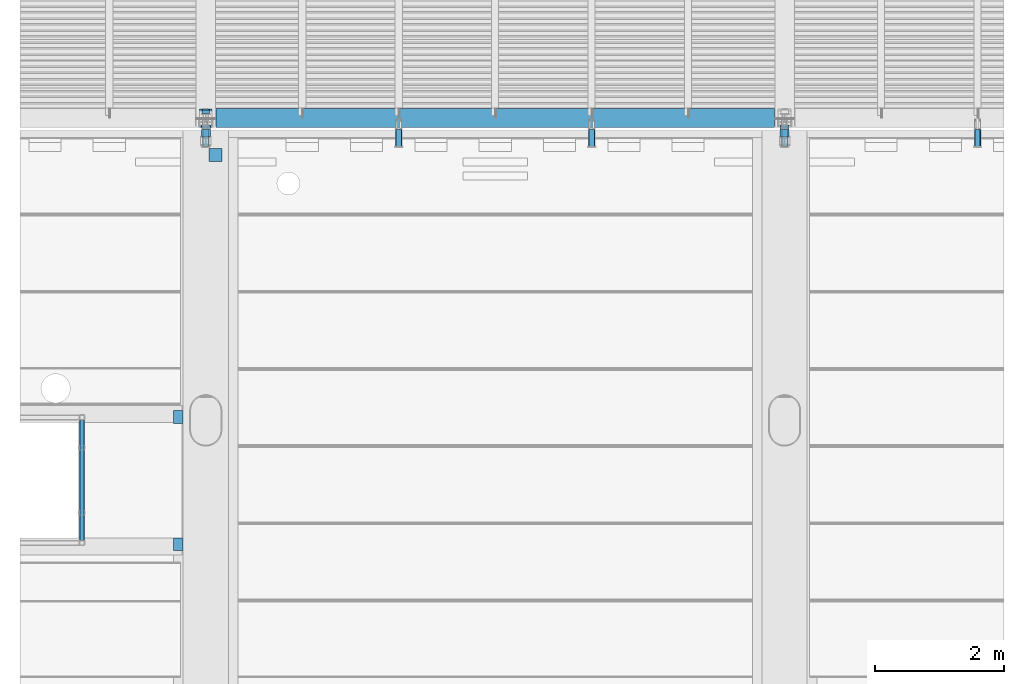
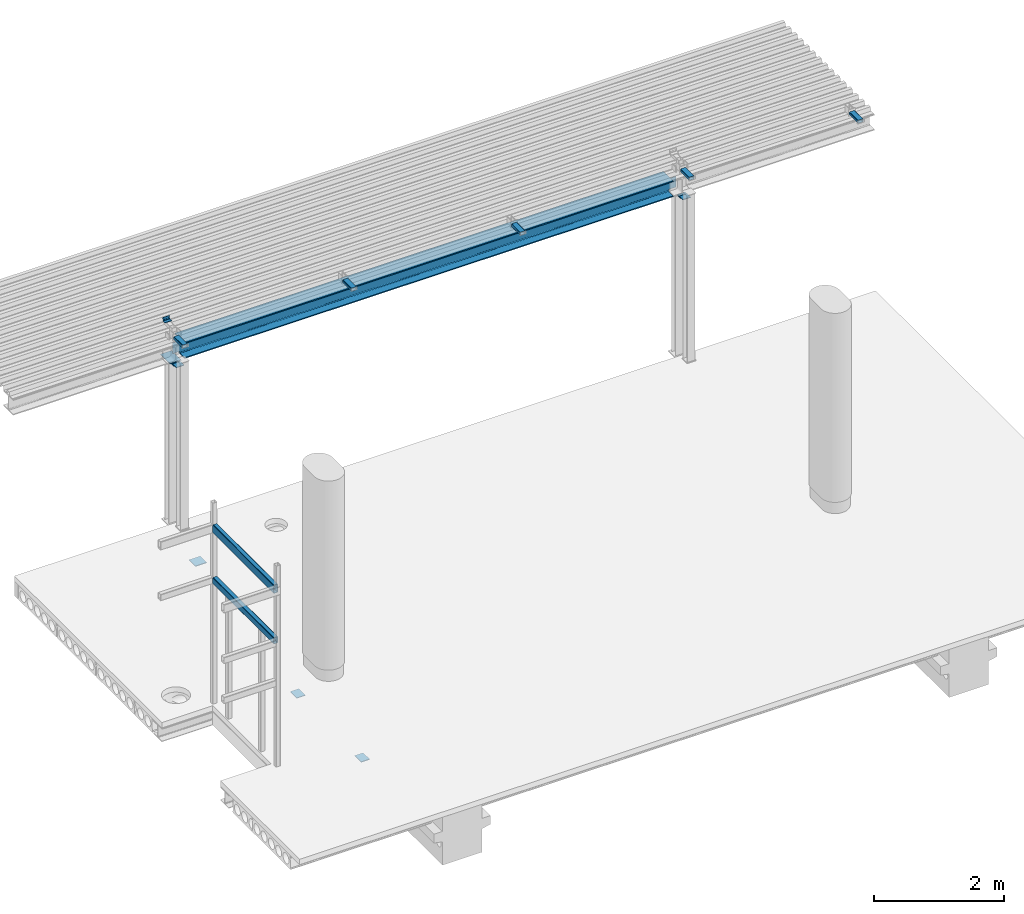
# One storey, part 5 of 34: 17 beams.
"""IFC2X3 building model written with IfcOpenShell, lengths in millimetres."""

from ifc_helpers import new_model, entity, si_unit, converted_unit, derived_unit, direction, frame, frame_2d, origin_with_axes, origin_2d_with_axis, place, context, subcontext, project, spatial, polyline, circle_curve, parameter, trimmed, segment, composite_curve, rectangle, hollow_rectangle, circle, i_section, l_section, outline, extrude, boolean, halfspace, material, type_object, element, save


model = new_model("IFC2X3")

# Units and contexts
model_context = context("Model", 3, precision=0.01, world=frame((0.0, 4.29681676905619e-09, 0.0)), true_north=direction((4.01073788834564e-13, 1.0)))
plan_context = context("Plan", 3, precision=0.01, world=frame((0.0, 4.29681676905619e-09, 0.0)), true_north=direction((4.01073788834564e-13, 1.0)))
body_context = subcontext(model_context, "Body", "Model", "MODEL_VIEW")
ifc_project = project(units=[converted_unit("PLANEANGLEUNIT", "DEGREE", entity("IfcPositiveLengthMeasure", 0.0174532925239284), si_unit("PLANEANGLEUNIT", "RADIAN"), dimensions=[0, 0, 0, 0, 0, 0, 0]), si_unit("AREAUNIT", "SQUARE_METRE"), si_unit("LENGTHUNIT", "METRE", prefix="MILLI"), si_unit("MASSUNIT", "GRAM", prefix="KILO"), si_unit("POWERUNIT", "WATT"), si_unit("PRESSUREUNIT", "PASCAL"), si_unit("FORCEUNIT", "NEWTON", prefix="KILO"), si_unit("ELECTRICVOLTAGEUNIT", "VOLT"), si_unit("ELECTRICCURRENTUNIT", "AMPERE"), si_unit("THERMODYNAMICTEMPERATUREUNIT", "DEGREE_CELSIUS"), si_unit("TIMEUNIT", "SECOND"), si_unit("VOLUMEUNIT", "CUBIC_METRE"), derived_unit("LINEARVELOCITYUNIT", [(si_unit("LENGTHUNIT", "METRE"), 1), (si_unit("TIMEUNIT", "SECOND"), -1)]), derived_unit("VOLUMETRICFLOWRATEUNIT", [(si_unit("VOLUMEUNIT", "CUBIC_METRE"), 1), (si_unit("TIMEUNIT", "SECOND"), -1)]), derived_unit("THERMALTRANSMITTANCEUNIT", [(si_unit("POWERUNIT", "WATT"), 1), (si_unit("THERMODYNAMICTEMPERATUREUNIT", "KELVIN"), -1), (si_unit("AREAUNIT", "SQUARE_METRE"), -1)]), derived_unit("SOUNDPRESSUREUNIT", [(si_unit("PRESSUREUNIT", "PASCAL"), 1)])], contexts=[model_context, plan_context])

# Site, building, storey
site_placement = place(None, frame((0.0, -4.29681676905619e-09, 0.0), z_axis=(0.0, 0.0, 1.0), x_axis=(1.0, 0.0, 0.0)))
site = spatial("IfcSite", under=ifc_project, at=site_placement, Name="Gardermoen", CompositionType="ELEMENT")
building_placement = place(site_placement, frame((0.0, 4.29681676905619e-09, 0.0), z_axis=(0.0, 0.0, 1.0), x_axis=(1.0, 0.0, 0.0)))
building = spatial("IfcBuilding", under=site, at=building_placement, Name="TH", CompositionType="ELEMENT")
storey_placement = place(building_placement, origin_with_axes())
storey = spatial("IfcBuildingStorey", under=building, at=storey_placement, Name="F", CompositionType="ELEMENT", Elevation=0.0)

# Beams
ifc_material_1 = material(Name="STEEL/S355")
beam_type_1 = type_object("IfcBeamType", Name="PL12*140", PredefinedType="NOTDEFINED")
for number, where, z_axis, x_axis, name in (
    (1, (898000.000000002, 484779.995625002, 213102.0), (-1.0, 0.0, 6.61744490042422e-24), (0.0, 1.0, 0.0), "STÅLSØYLE"),
    (2, (907000.000000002, 484779.995625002, 213102.0), (-1.0, 0.0, 6.61744490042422e-24), (0.0, 1.0, 0.0), "STÅLSØYLE"),
    (3, (898000.000000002, 484710.000057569, 213114.0), (-1.0, 0.0, 6.61744490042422e-24), (0.0, 1.0, 0.0), "STÅLSPESIAL"),
    (4, (907000.000000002, 484710.000057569, 213114.0), (-1.0, 0.0, 6.61744490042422e-24), (0.0, 1.0, 0.0), "STÅLSPESIAL"),
):
    element("IfcBeam", number, at=place(storey_placement, frame(where, z_axis=z_axis, x_axis=x_axis)), inside=storey, type_object=beam_type_1, material=ifc_material_1, Name=name, ObjectType="PL12*140", context=body_context, shape_type="SweptSolid", body=[
        extrude(rectangle(XDim=12.0, YDim=140.0, at=origin_2d_with_axis()), frame((109.999999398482, 1.10038606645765e-25, 0.0), z_axis=(-1.0, 0.0, 6.61744490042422e-24), x_axis=(0.0, -1.0, 0.0)), (0.0, 0.0, 1.0), 110.0),
    ])
beam_type_2 = type_object("IfcBeamType", Name="PL10*150", PredefinedType="NOTDEFINED")
for number, where, z_axis, x_axis in (
    (5, (897649.999531, 480455.001182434, 209760.000000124), (6.61744490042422e-24, 0.0, 1.0), (-1.0, 0.0, 6.61744490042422e-24)),
    (6, (897649.999531, 478475.001182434, 209760.000000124), (6.61744490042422e-24, 0.0, 1.0), (-1.0, 0.0, 6.61744490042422e-24)),
):
    element("IfcBeam", number, at=place(storey_placement, frame(where, z_axis=z_axis, x_axis=x_axis)), inside=storey, type_object=beam_type_2, material=ifc_material_1, Name="INNSTØPNGODS", ObjectType="PL10*150", context=body_context, shape_type="SweptSolid", body=[
        extrude(outline(polyline([(0.0, 0.0), (150.0, -2.44426701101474e-12), (150.0, 200.0), (0.0, 200.0), (0.0, 0.0)])), frame((0.0, 0.0, -5.0), z_axis=(0.0, 0.0, 1.0), x_axis=(1.0, 0.0, 0.0)), (0.0, 0.0, 1.0), 10.0),
    ])
beam_type_3 = type_object("IfcBeamType", Name="PL10*200", PredefinedType="NOTDEFINED")
beam_1_placement = place(storey_placement, frame((898049.995402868, 484525.1394133, 209575.0), z_axis=(-1.79291902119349e-18, 2.67799702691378e-13, -1.0), x_axis=(0.999999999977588, 6.6950000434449e-06, 0.0)))
element("IfcBeam", 7, at=beam_1_placement, inside=storey, type_object=beam_type_3, material=ifc_material_1, Name="INNSTØPNGODS", ObjectType="PL10*200", context=body_context, shape_type="SweptSolid", body=[
    extrude(outline(polyline([(0.0, 0.0), (200.000000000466, 2.3283064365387e-09), (200.000000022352, 199.999999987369), (0.0, 200.0), (0.0, 0.0)])), frame((0.0, 0.0, -5.0), z_axis=(0.0, 0.0, 1.0), x_axis=(1.0, 0.0, 0.0)), (0.0, 0.0, 1.0), 10.0),
])
beam_type_4 = type_object("IfcBeamType", Name="HEB300", PredefinedType="NOTDEFINED")
beam_2_placement = place(storey_placement, frame((898000.000000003, 484999.995625, 213270.0), z_axis=(0.0, 0.0, 1.0), x_axis=(1.0, 0.0, 0.0)))
element("IfcBeam", 8, at=beam_2_placement, inside=storey, type_object=beam_type_4, material=ifc_material_1, Name="STÅLBJELKE", ObjectType="HEB300", context=body_context, shape_type="CSG", body=[
    boolean("DIFFERENCE", boolean("DIFFERENCE", boolean("DIFFERENCE", boolean("DIFFERENCE", boolean("DIFFERENCE", boolean("DIFFERENCE", extrude(i_section(OverallWidth=300.0, OverallDepth=300.0, WebThickness=11.0, FlangeThickness=19.0, FilletRadius=27.0, at=origin_2d_with_axis()), frame((8970.0, 0.0, 0.0), z_axis=(-1.0, 0.0, 6.61744490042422e-24), x_axis=(0.0, -1.0, 0.0)), (0.0, 0.0, 1.0), 8940.0), extrude(outline(composite_curve([segment(polyline([(0.0, 0.0), (130.0, 0.0)]), True, "CONTINUOUS"), segment(trimmed(circle_curve(frame_2d((130.000000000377, 9.99999999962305), x_axis=(0.0, -1.0)), 10.0), [parameter(0.0)], [parameter(89.9999999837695)], True, "PARAMETER"), True, "CONTINUOUS"), segment(polyline([(140.0, 10.0), (140.0, 60.0), (5.82076609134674e-11, 60.0), (0.0, 0.0)]), True, "CONTINUOUS")], self_intersect=True)), frame((19.9999999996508, -160.0, -100.0), z_axis=(0.0, 1.0, 0.0), x_axis=(1.0, 0.0, 0.0)), (0.0, 0.0, 1.0), 320.0)), extrude(outline(composite_curve([segment(polyline([(0.0, 0.0), (130.0, 0.0)]), True, "CONTINUOUS"), segment(trimmed(circle_curve(frame_2d((130.000000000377, 9.99999999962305), x_axis=(0.0, -1.0)), 10.0), [parameter(0.0)], [parameter(89.9999999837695)], True, "PARAMETER"), True, "CONTINUOUS"), segment(polyline([(140.0, 10.0), (140.0, 60.0), (5.82076609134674e-11, 60.0), (0.0, 0.0)]), True, "CONTINUOUS")], self_intersect=True)), frame((19.9999999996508, 160.0, 100.0), z_axis=(0.0, -1.0, 0.0), x_axis=(1.0, 0.0, 0.0)), (0.0, 0.0, 1.0), 320.0)), extrude(outline(composite_curve([segment(polyline([(0.0, 0.0), (130.0, 0.0)]), True, "CONTINUOUS"), segment(trimmed(circle_curve(frame_2d((130.000000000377, 9.99999999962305), x_axis=(0.0, -1.0)), 10.0), [parameter(0.0)], [parameter(89.9999999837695)], True, "PARAMETER"), True, "CONTINUOUS"), segment(polyline([(140.0, 10.0), (140.0, 60.0), (5.82076609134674e-11, 60.0), (0.0, 0.0)]), True, "CONTINUOUS")], self_intersect=True)), frame((8979.99999999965, 160.0, -100.0), z_axis=(0.0, -1.0, 0.0), x_axis=(-1.0, 0.0, 6.61744490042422e-24)), (0.0, 0.0, 1.0), 320.0)), extrude(outline(composite_curve([segment(polyline([(0.0, 0.0), (130.0, 0.0)]), True, "CONTINUOUS"), segment(trimmed(circle_curve(frame_2d((130.000000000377, 9.99999999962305), x_axis=(0.0, -1.0)), 10.0), [parameter(0.0)], [parameter(89.9999999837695)], True, "PARAMETER"), True, "CONTINUOUS"), segment(polyline([(140.0, 10.0), (140.0, 60.0), (5.82076609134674e-11, 60.0), (0.0, 0.0)]), True, "CONTINUOUS")], self_intersect=True)), frame((8979.99999999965, -160.0, 100.0), z_axis=(0.0, 1.0, 0.0), x_axis=(-1.0, 0.0, 6.61744490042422e-24)), (0.0, 0.0, 1.0), 320.0)), halfspace(frame((8969.99999999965, 0.0, 250.0), z_axis=(1.0, 0.0, 0.0), x_axis=(0.0, 1.0, 0.0)), False)), halfspace(frame((29.9999999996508, 0.0, 250.0), z_axis=(-1.0, 0.0, 6.61744490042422e-24), x_axis=(0.0, -1.0, 0.0)), False)),
])
ifc_material_2 = material(Name="STEEL/AISI304")
beam_type_5 = type_object("IfcBeamType", Name="L70*7", PredefinedType="NOTDEFINED")
beam_3_placement = place(storey_placement, frame((898060.000000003, 485107.262340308, 213761.217245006), z_axis=(2.34513763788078e-25, -0.999371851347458, 0.0354387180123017), x_axis=(-1.0, 0.0, 6.61744490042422e-24)))
element("IfcBeam", 9, at=beam_3_placement, inside=storey, type_object=beam_type_5, material=ifc_material_2, Name="STÅLSPESIAL", ObjectType="L70*7", context=body_context, shape_type="CSG", body=[
    boolean("DIFFERENCE", boolean("DIFFERENCE", boolean("DIFFERENCE", extrude(l_section(Depth=70.0, Width=70.0, Thickness=7.0, FilletRadius=9.0, EdgeRadius=4.5, at=origin_2d_with_axis()), frame((119.999999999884, 0.0, 0.0), z_axis=(-1.0, 0.0, 6.61744490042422e-24), x_axis=(0.0, -1.0, 0.0)), (0.0, 0.0, 1.0), 120.0), extrude(circle(Radius=6.25, at=origin_2d_with_axis()), frame((100.0, 5.00000000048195, -26.5000000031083), z_axis=(-3.99999553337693e-08, 0.0, -0.999999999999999), x_axis=(1.0, 0.0, 0.0)), (0.0, 0.0, 1.0), 10.0)), extrude(circle(Radius=6.25, at=origin_2d_with_axis()), frame((60.0, 5.00000000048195, -26.5000000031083), z_axis=(-3.99999553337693e-08, 0.0, -0.999999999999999), x_axis=(1.0, 0.0, 0.0)), (0.0, 0.0, 1.0), 10.0)), extrude(circle(Radius=6.25, at=origin_2d_with_axis()), frame((20.0, 5.00000000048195, -26.5000000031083), z_axis=(-3.99999553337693e-08, 0.0, -0.999999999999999), x_axis=(1.0, 0.0, 0.0)), (0.0, 0.0, 1.0), 10.0)),
])
beam_type_6 = type_object("IfcBeamType", Name="PL12*200", PredefinedType="NOTDEFINED")
beam_4_placement = place(storey_placement, frame((898000.000000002, 484849.995625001, 213114.0), z_axis=(1.0, 0.0, 0.0), x_axis=(0.0, 1.0, 0.0)))
element("IfcBeam", 10, at=beam_4_placement, inside=storey, type_object=beam_type_6, material=ifc_material_1, Name="STÅLSØYLE", ObjectType="PL12*200", context=body_context, shape_type="SweptSolid", body=[
    extrude(rectangle(XDim=12.0, YDim=200.0, at=origin_2d_with_axis()), frame((290.0, 0.0, 0.0), z_axis=(-1.0, 0.0, 6.61744490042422e-24), x_axis=(0.0, -1.0, 0.0)), (0.0, 0.0, 1.0), 290.0),
])
beam_type_7 = type_object("IfcBeamType", Name="RHS100*60*6.3", PredefinedType="NOTDEFINED")
for number, where, z_axis, x_axis in (
    (11, (907000.000000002, 484559.999691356, 213589.998875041), (-1.0, 0.0, 6.61744490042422e-24), (0.0, 1.0, 0.0)),
    (12, (898000.000000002, 484559.999691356, 213589.998875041), (-1.0, 0.0, 6.61744490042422e-24), (0.0, 1.0, 0.0)),
    (13, (910000.000000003, 484559.999691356, 213610.00092537), (-1.0, 0.0, 6.61744490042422e-24), (0.0, 1.0, 0.0)),
    (14, (904000.000000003, 484559.999691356, 213610.00092537), (-1.0, 0.0, 6.61744490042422e-24), (0.0, 1.0, 0.0)),
    (15, (901000.000000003, 484559.999691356, 213610.00092537), (-1.0, 0.0, 6.61744490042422e-24), (0.0, 1.0, 0.0)),
):
    element("IfcBeam", number, at=place(storey_placement, frame(where, z_axis=z_axis, x_axis=x_axis)), inside=storey, type_object=beam_type_7, material=ifc_material_1, Name="STÅLSPESIAL", ObjectType="RHS100*60*6.3", context=body_context, shape_type="SweptSolid", body=[
        extrude(hollow_rectangle(XDim=60.0, YDim=100.0, WallThickness=6.300000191, InnerFilletRadius=9.499999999, OuterFilletRadius=15.80000019, at=origin_2d_with_axis()), frame((265.000308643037, 0.0, 0.0), z_axis=(-1.0, 0.0, 6.61744490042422e-24), x_axis=(0.0, -1.0, 0.0)), (0.0, 0.0, 1.0), 265.0),
    ])
beam_type_8 = type_object("IfcBeamType", Name="RHS120*80*5", PredefinedType="NOTDEFINED")
beam_5_placement = place(storey_placement, frame((896074.999766, 478435.0, 212450.0), z_axis=(0.0, 0.0, 1.0), x_axis=(0.0, 1.0, 0.0)))
element("IfcBeam", 16, at=beam_5_placement, inside=storey, type_object=beam_type_8, material=ifc_material_1, Name="STÅLBJELKE", ObjectType="RHS120*80*5", context=body_context, shape_type="SweptSolid", body=[
    extrude(hollow_rectangle(XDim=80.0, YDim=120.0, WallThickness=5.0, InnerFilletRadius=7.5, OuterFilletRadius=12.5, at=origin_2d_with_axis()), frame((1870.0, 0.0, 0.0), z_axis=(-1.0, 0.0, 6.61744490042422e-24), x_axis=(0.0, -1.0, 0.0)), (0.0, 0.0, 1.0), 1870.0),
])
beam_type_9 = type_object("IfcBeamType", Name="RHS160*80*6.3", PredefinedType="NOTDEFINED")
beam_6_placement = place(storey_placement, frame((896074.999766, 478435.0, 213420.0), z_axis=(0.0, 0.0, 1.0), x_axis=(0.0, 1.0, 0.0)))
element("IfcBeam", 17, at=beam_6_placement, inside=storey, type_object=beam_type_9, material=ifc_material_1, Name="STÅLBJELKE", ObjectType="RHS160*80*6.3", context=body_context, shape_type="SweptSolid", body=[
    extrude(hollow_rectangle(XDim=80.0, YDim=160.0, WallThickness=6.300000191, InnerFilletRadius=9.499999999, OuterFilletRadius=15.80000019, at=origin_2d_with_axis()), frame((1870.0, 0.0, 0.0), z_axis=(-1.0, 0.0, 6.61744490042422e-24), x_axis=(0.0, -1.0, 0.0)), (0.0, 0.0, 1.0), 1870.0),
])

save(model, "model.ifc")
